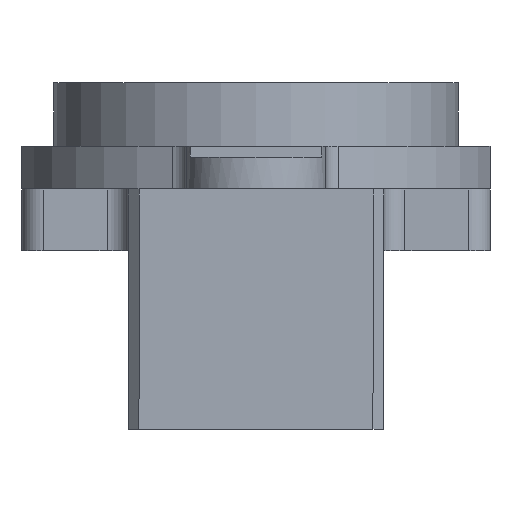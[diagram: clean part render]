
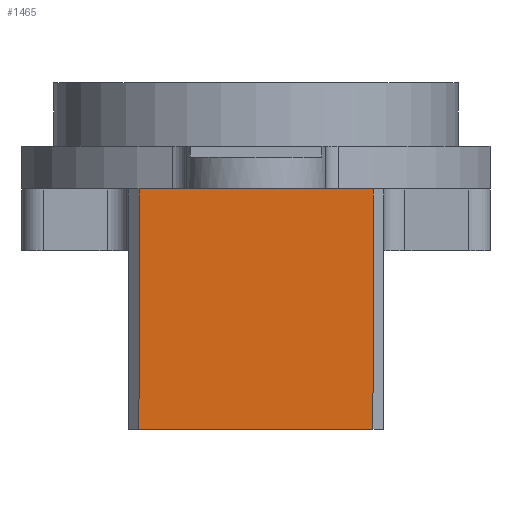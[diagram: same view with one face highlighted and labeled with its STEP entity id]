
A CAD part, front view. The second image highlights one B-rep face of the part: STEP entity #1465.
In plain terms, the highlighted planar face has unit normal (0, -1, 0).
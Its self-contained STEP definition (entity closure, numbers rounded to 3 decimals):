
#31 = DIRECTION ( 'NONE',  ( 0., 0., -1. ) ) ;
#125 = CARTESIAN_POINT ( 'NONE',  ( -27.5, -84., -42. ) ) ;
#242 = LINE ( 'NONE', #3404, #2237 ) ;
#616 = DIRECTION ( 'NONE',  ( 0., 0., -1. ) ) ;
#630 = LINE ( 'NONE', #2719, #3134 ) ;
#721 = CARTESIAN_POINT ( 'NONE',  ( -27.5, -84., 39.5 ) ) ;
#910 = FACE_OUTER_BOUND ( 'NONE', #2477, .T. ) ;
#991 = DIRECTION ( 'NONE',  ( -1., 0., 0. ) ) ;
#1023 = VERTEX_POINT ( 'NONE', #125 ) ;
#1212 = DIRECTION ( 'NONE',  ( 0., 1., 0. ) ) ;
#1303 = EDGE_CURVE ( 'NONE', #3415, #1023, #630, .T. ) ;
#1391 = AXIS2_PLACEMENT_3D ( 'NONE', #721, #1212, #3379 ) ;
#1410 = DIRECTION ( 'NONE',  ( 1., 0., 0. ) ) ;
#1465 = ADVANCED_FACE ( 'NONE', ( #910 ), #2251, .F. ) ;
#1735 = CARTESIAN_POINT ( 'NONE',  ( -27.5, -84., 14.5 ) ) ;
#1864 = EDGE_CURVE ( 'NONE', #2855, #1956, #2272, .T. ) ;
#1956 = VERTEX_POINT ( 'NONE', #2902 ) ;
#2140 = ORIENTED_EDGE ( 'NONE', *, *, #1303, .T. ) ;
#2195 = ORIENTED_EDGE ( 'NONE', *, *, #2966, .F. ) ;
#2237 = VECTOR ( 'NONE', #991, 1000. ) ;
#2251 = PLANE ( 'NONE',  #1391 ) ;
#2272 = LINE ( 'NONE', #2982, #3252 ) ;
#2477 = EDGE_LOOP ( 'NONE', ( #3196, #2140, #2195, #2536 ) ) ;
#2536 = ORIENTED_EDGE ( 'NONE', *, *, #1864, .F. ) ;
#2719 = CARTESIAN_POINT ( 'NONE',  ( -27.5, -84., 39.5 ) ) ;
#2721 = VECTOR ( 'NONE', #1410, 1000. ) ;
#2855 = VERTEX_POINT ( 'NONE', #3144 ) ;
#2902 = CARTESIAN_POINT ( 'NONE',  ( 27.5, -84., -42. ) ) ;
#2966 = EDGE_CURVE ( 'NONE', #1956, #1023, #242, .T. ) ;
#2982 = CARTESIAN_POINT ( 'NONE',  ( 27.5, -84., 39.5 ) ) ;
#3134 = VECTOR ( 'NONE', #616, 1000. ) ;
#3144 = CARTESIAN_POINT ( 'NONE',  ( 27.5, -84., 14.5 ) ) ;
#3196 = ORIENTED_EDGE ( 'NONE', *, *, #3478, .F. ) ;
#3252 = VECTOR ( 'NONE', #31, 1000. ) ;
#3315 = CARTESIAN_POINT ( 'NONE',  ( -27.5, -84., 14.5 ) ) ;
#3353 = LINE ( 'NONE', #1735, #2721 ) ;
#3379 = DIRECTION ( 'NONE',  ( -1., 0., 0. ) ) ;
#3404 = CARTESIAN_POINT ( 'NONE',  ( 27.5, -84., -42. ) ) ;
#3415 = VERTEX_POINT ( 'NONE', #3315 ) ;
#3478 = EDGE_CURVE ( 'NONE', #3415, #2855, #3353, .T. ) ;
